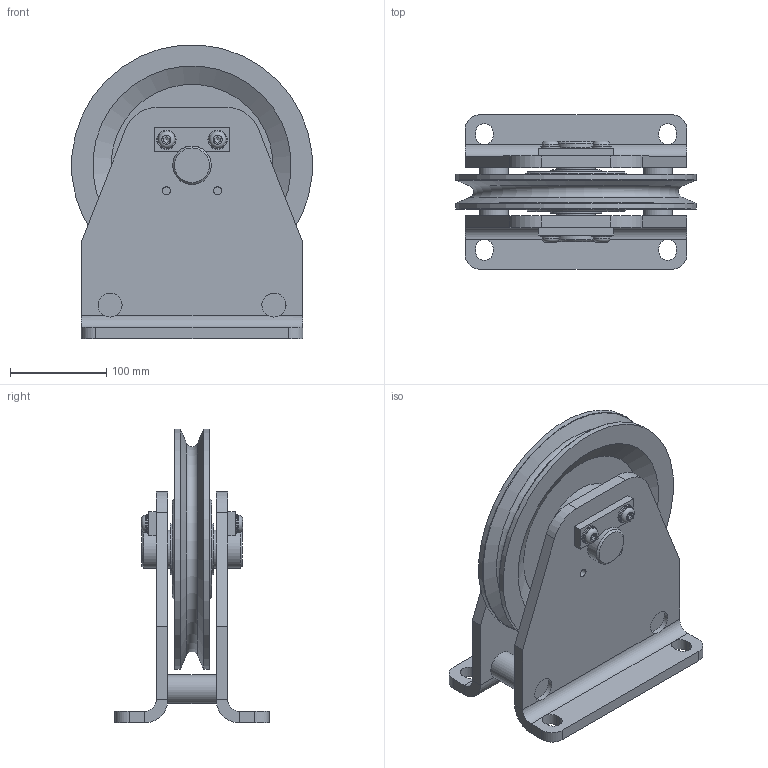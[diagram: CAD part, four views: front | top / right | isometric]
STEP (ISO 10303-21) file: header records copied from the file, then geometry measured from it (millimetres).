
FILE_DESCRIPTION(/* description */ ('Seilrollenbock ø250 Stahl Gleitlager komplett'),/* implementation_level */ '2;1');
FILE_NAME(/* name */ 'Z:\Workspace\03 Seilrollen\1.405 Seilrollenbock Stahl Gleitlager\1.405.07 Seilrollenbock ø250 Stahl Gleitlager\1.405.07 Seilrollenbock ø250 Stahl Gleitlager komplett.stp',/* time_stamp */ '2021-10-06T07:38:52+02:00',/* author */ ('cad-user'),/* organization */ (''),/* preprocessor_version */ 'ST-DEVELOPER v18',/* originating_system */ 'Autodesk Inventor 2020',/* authorisation */ '');
FILE_SCHEMA (('AUTOMOTIVE_DESIGN { 1 0 10303 214 3 1 1 }'));
Length unit declared in the file: millimetre
Products named in the file (12): 1.405.07 Seilrollenbock ø250 Stahl Gleitlager kompl
ett; 1.405.07.01 Seilrollenbock Schweißteil; 1.405.07.01 Blech; 1.405.07.01 Distanzachse; 1.401.07 Seilrolle ø250 Buchse komplett; 1.401.07 Seilrolle ø250 Buchse; Bundbuchse BB4044-16-DU; Bundbuchse BB4044-26-DU; 1.405.07.03 Lasche; 1.405.07.02 Achse; DIN 125-1 - B 10,5; ISO 7380 - M10 x 20
Assembly tree (20 placements, depth 3):
  1.405.07 Seilrollenbock ø250 Stahl Gleitlager kompl
ett
    1.405.07.01 Seilrollenbock Schweißteil
      1.405.07.01 Blech  x2
      1.405.07.01 Distanzachse  x2
    1.401.07 Seilrolle ø250 Buchse komplett
      1.401.07 Seilrolle ø250 Buchse
      Bundbuchse BB4044-16-DU
      Bundbuchse BB4044-26-DU
    1.405.07.03 Lasche  x2
    1.405.07.02 Achse
    DIN 125-1 - B 10,5  x4
    ISO 7380 - M10 x 20  x4
Bounding box: 249.17 x 160 x 304.59 mm (x, y, z)
Volume: 2631522.9 mm3; surface area: 461862.2 mm2
Topology: 18 solids, 18 shells, 233 faces, 615 edges, 410 vertices
Faces by surface type: plane 124, cylinder 72, cone 24, torus 13
Full cylindrical faces by diameter (mm): 8.376 x8, 10 x4, 10.5 x4, 11 x2, 12 x2, 17.5 x4, 20 x4, 25 x8, 30 x2, 40 x5, 44 x1, 105 x2, 250 x2
Entity records: 4531 total; most frequent: CARTESIAN_POINT 798, DIRECTION 771, ORIENTED_EDGE 650, EDGE_CURVE 325, AXIS2_PLACEMENT_3D 310, VERTEX_POINT 216, CIRCLE 155, LINE 151
